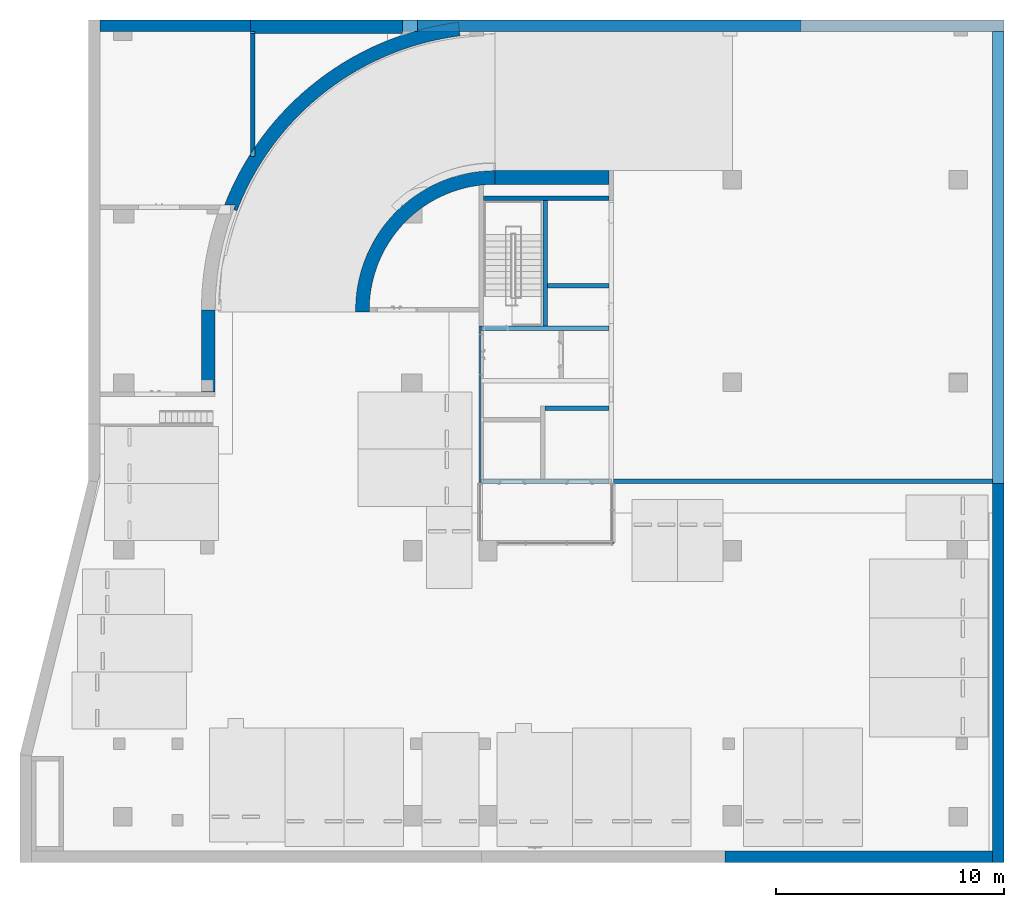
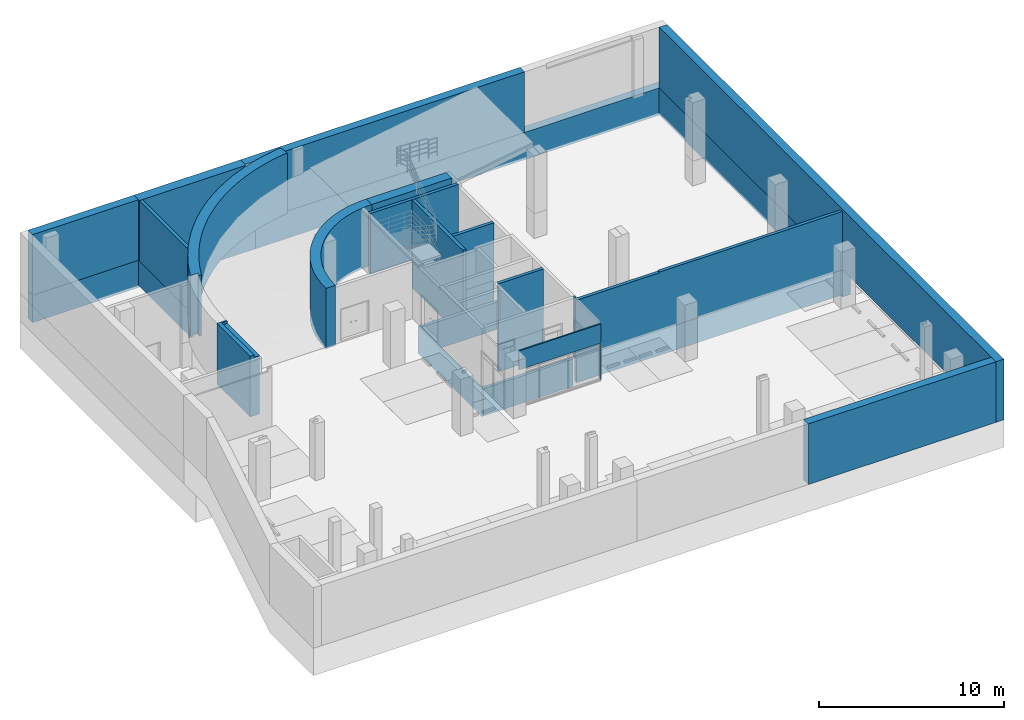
# One storey, part 13 of 30: 26 walls.
"""IFC2X3 building model written with IfcOpenShell, lengths in millimetres."""

from ifc_helpers import new_model, entity, si_unit, converted_unit, derived_unit, direction, frame, frame_2d, origin, place, context, subcontext, project, spatial, polyline, circle_curve, parameter, trimmed, segment, composite_curve, rectangle, outline, extrude, clip, bounded_halfspace, faceted_brep, material, layer, layer_set, layer_usage, type_object, element, save


model = new_model("IFC2X3")

# Units and contexts
model_context = context("Model", 3, precision=0.01, world=origin(), true_north=direction((6.123031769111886e-17, 1.0)))
body_context = subcontext(model_context, "Body", "Model", "MODEL_VIEW")
ifc_project = project(units=[si_unit("LENGTHUNIT", "METRE", prefix="MILLI"), si_unit("AREAUNIT", "SQUARE_METRE"), si_unit("VOLUMEUNIT", "CUBIC_METRE"), converted_unit("PLANEANGLEUNIT", "DEGREE", entity("IfcRatioMeasure", 0.017453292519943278), si_unit("PLANEANGLEUNIT", "RADIAN"), dimensions=[0, 0, 0, 0, 0, 0, 0]), si_unit("MASSUNIT", "GRAM", prefix="KILO"), derived_unit("MASSDENSITYUNIT", [(si_unit("MASSUNIT", "GRAM", prefix="KILO"), 1), (si_unit("LENGTHUNIT", "METRE"), -3)]), derived_unit("MOMENTOFINERTIAUNIT", [(si_unit("LENGTHUNIT", "METRE"), 4)]), si_unit("TIMEUNIT", "SECOND"), si_unit("FREQUENCYUNIT", "HERTZ"), si_unit("THERMODYNAMICTEMPERATUREUNIT", "DEGREE_CELSIUS"), derived_unit("THERMALTRANSMITTANCEUNIT", [(si_unit("MASSUNIT", "GRAM", prefix="KILO"), 1), (si_unit("THERMODYNAMICTEMPERATUREUNIT", "KELVIN"), -1), (si_unit("TIMEUNIT", "SECOND"), -3)]), derived_unit("VOLUMETRICFLOWRATEUNIT", [(si_unit("LENGTHUNIT", "METRE"), 3), (si_unit("TIMEUNIT", "SECOND"), -1)]), derived_unit("MASSFLOWRATEUNIT", [(si_unit("MASSUNIT", "GRAM", prefix="KILO"), 1), (si_unit("TIMEUNIT", "SECOND"), -1)]), derived_unit("ROTATIONALFREQUENCYUNIT", [(si_unit("TIMEUNIT", "SECOND"), -1)]), si_unit("ELECTRICCURRENTUNIT", "AMPERE"), si_unit("ELECTRICVOLTAGEUNIT", "VOLT"), si_unit("POWERUNIT", "WATT"), si_unit("FORCEUNIT", "NEWTON", prefix="KILO"), si_unit("ILLUMINANCEUNIT", "LUX"), si_unit("LUMINOUSFLUXUNIT", "LUMEN"), si_unit("LUMINOUSINTENSITYUNIT", "CANDELA"), derived_unit("USERDEFINED", [(si_unit("MASSUNIT", "GRAM", prefix="KILO"), -1), (si_unit("LENGTHUNIT", "METRE"), -2), (si_unit("TIMEUNIT", "SECOND"), 3), (si_unit("LUMINOUSFLUXUNIT", "LUMEN"), 1)]), derived_unit("SOUNDPOWERUNIT", [(si_unit("MASSUNIT", "GRAM", prefix="KILO"), 1), (si_unit("LENGTHUNIT", "METRE"), 2), (si_unit("TIMEUNIT", "SECOND"), -3)]), derived_unit("SOUNDPRESSUREUNIT", [(si_unit("MASSUNIT", "GRAM", prefix="KILO"), 1), (si_unit("LENGTHUNIT", "METRE"), -1), (si_unit("TIMEUNIT", "SECOND"), -2)]), derived_unit("LINEARVELOCITYUNIT", [(si_unit("LENGTHUNIT", "METRE"), 1), (si_unit("TIMEUNIT", "SECOND"), -1)]), si_unit("PRESSUREUNIT", "PASCAL"), derived_unit("USERDEFINED", [(si_unit("LENGTHUNIT", "METRE"), -2), (si_unit("MASSUNIT", "GRAM", prefix="KILO"), 1), (si_unit("TIMEUNIT", "SECOND"), -2)]), derived_unit("LINEARFORCEUNIT", [(si_unit("MASSUNIT", "GRAM", prefix="KILO"), 1), (si_unit("LENGTHUNIT", "METRE"), 1), (si_unit("TIMEUNIT", "SECOND"), -2), (si_unit("LENGTHUNIT", "METRE"), -1)]), derived_unit("PLANARFORCEUNIT", [(si_unit("MASSUNIT", "GRAM", prefix="KILO"), 1), (si_unit("LENGTHUNIT", "METRE"), 1), (si_unit("TIMEUNIT", "SECOND"), -2), (si_unit("LENGTHUNIT", "METRE"), -2)])], contexts=[model_context])

# Site, building, storey
site_placement = place(None, frame((-14167.972527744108, -657.2125860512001, 0.0)))
site = spatial("IfcSite", under=ifc_project, at=site_placement, Name="Default", CompositionType="ELEMENT")
building_placement = place(site_placement, origin())
building = spatial("IfcBuilding", under=site, at=building_placement, Name="Sample Building", CompositionType="ELEMENT")
storey_placement = place(building_placement, frame((0.0, 0.0, -10100.0)))
storey = spatial("IfcBuildingStorey", under=building, at=storey_placement, Name="지하2층", CompositionType="ELEMENT", Elevation=-10100.0)

# Walls
ifc_material_1 = material(Name="KBIMS-콘크리트")
ifc_layer_1 = layer(ifc_material_1, 200.0)
ifc_layer_set_1 = layer_set([ifc_layer_1], Name="기본 벽:WA111-철근콘크리트구조 벽 200mm_CW1")
wall_type_1 = type_object("IfcWallType", Name="기본 벽:WA111-철근콘크리트구조 벽 200mm_CW1", PredefinedType="STANDARD", material=ifc_layer_set_1)
wall_1_placement = place(storey_placement, frame((30066.125814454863, 22457.212311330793, -1800.0), z_axis=(0.0, 0.0, 1.0), x_axis=(0.0, -1.0, 0.0)))
element("IfcWall", 1, at=wall_1_placement, inside=storey, type_object=wall_type_1, Name="기본 벽:WA111-철근콘크리트구조 벽 200mm_CW1", ObjectType="기본 벽:WA111-철근콘크리트구조 벽 200mm_CW1", context=body_context, shape_type="Brep", body=[
    faceted_brep([(0.0, 100.0, 1800.0), (6900.0, 100.0, 1800.0), (6900.0, 100.0, 0.0), (0.0, 100.0, 0.0), (6900.0, 0.0, 0.0), (0.0, 0.0, 0.0), (0.0, 1.8466492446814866, 1800.0), (6900.0, 1.846649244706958, 1800.0), (0.0, 0.0, 1800.0), (6900.0, 0.0, 1800.0)], [[[0, 1, 2, 3]], [[3, 2, 4, 5]], [[1, 0, 6, 7]], [[7, 6, 8, 9]], [[5, 8, 6, 0, 3]], [[8, 5, 4, 9]], [[9, 4, 2, 1, 7]]]),
])
ifc_layer_usage_1 = layer_usage(ifc_layer_set_1, "AXIS2", "NEGATIVE", 100.0)
wall_2_placement = place(storey_placement, frame((30266.125814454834, 28057.212307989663, 0.0)))
element("IfcWallStandardCase", 2, at=wall_2_placement, inside=storey, type_object=wall_type_1, material=ifc_layer_usage_1, Name="기본 벽:WA111-철근콘크리트구조 벽 200mm_CW1", ObjectType="기본 벽:WA111-철근콘크리트구조 벽 200mm_CW1", context=body_context, shape_type="SweptSolid", body=[
    extrude(rectangle(XDim=5501.846676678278, YDim=199.99999999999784, at=frame_2d((2750.923338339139, 0.0), x_axis=(-1.0, 0.0))), origin(), (0.0, 0.0, 1.0), 4000.0000000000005),
])
ifc_layer_usage_2 = layer_usage(ifc_layer_set_1, "AXIS2", "NEGATIVE", 100.0)
wall_3_placement = place(storey_placement, frame((32967.97249113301, 27957.212307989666, 0.0), z_axis=(0.0, 0.0, 1.0), x_axis=(0.0, -1.0, 0.0)))
element("IfcWallStandardCase", 3, at=wall_3_placement, inside=storey, type_object=wall_type_1, material=ifc_layer_usage_2, Name="기본 벽:WA111-철근콘크리트구조 벽 200mm_CW1", ObjectType="기본 벽:WA111-철근콘크리트구조 벽 200mm_CW1", context=body_context, shape_type="SweptSolid", body=[
    extrude(rectangle(XDim=5499.999996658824, YDim=199.99999999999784, at=frame_2d((2749.999998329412, -4.263256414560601e-14), x_axis=(-1.0, 0.0))), origin(), (0.0, 0.0, 1.0), 4000.0000000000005),
])
ifc_layer_usage_3 = layer_usage(ifc_layer_set_1, "AXIS2", "NEGATIVE", 100.0)
wall_4_placement = place(storey_placement, frame((32967.97271708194, 18857.21230965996, 0.0)))
element("IfcWallStandardCase", 4, at=wall_4_placement, inside=storey, type_object=wall_type_1, material=ifc_layer_usage_3, Name="기본 벽:WA111-철근콘크리트구조 벽 200mm_CW1", ObjectType="기본 벽:WA111-철근콘크리트구조 벽 200mm_CW1", context=body_context, shape_type="SweptSolid", body=[
    extrude(rectangle(XDim=2799.999774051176, YDim=200.0, at=frame_2d((1399.999887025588, -1.0871303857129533e-12), x_axis=(-1.0, 0.0))), origin(), (0.0, 0.0, 1.0), 4000.0000000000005),
])
wall_5_placement = place(storey_placement, frame((52567.97249113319, 15653.302947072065, -1800.0), z_axis=(0.0, 0.0, 1.0), x_axis=(-1.0, 0.0, 0.0)))
element("IfcWall", 5, at=wall_5_placement, inside=storey, type_object=wall_type_1, Name="기본 벽:WA111-철근콘크리트구조 벽 200mm_CW1", ObjectType="기본 벽:WA111-철근콘크리트구조 벽 200mm_CW1", context=body_context, shape_type="SweptSolid", body=[
    extrude(rectangle(XDim=200.0, YDim=16600.00000000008, at=frame_2d((0.0, 4.547473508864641e-12), x_axis=(1.0, 0.0))), frame((8300.0, 0.0, 160.0), z_axis=(0.0, 0.0, 1.0), x_axis=(0.0, 1.0, 0.0)), (0.0, 0.0, 1.0), 1639.9999999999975),
    extrude(rectangle(XDim=5601.846676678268, YDim=200.0, at=frame_2d((33.02547857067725, -33.333333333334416), x_axis=(1.0, 0.0))), frame((19633.948816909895, -33.333333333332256, 0.0), z_axis=(0.0, 0.0, 1.0), x_axis=(-1.0, 0.0, 0.0)), (0.0, 0.0, 1.0), 1800.0000000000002),
])
ifc_layer_usage_4 = layer_usage(ifc_layer_set_1, "AXIS2", "NEGATIVE", 100.0)
wall_6_placement = place(storey_placement, frame((30166.12581445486, 22357.21231133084, -1800.0)))
element("IfcWallStandardCase", 6, at=wall_6_placement, inside=storey, type_object=wall_type_1, material=ifc_layer_usage_4, Name="기본 벽:WA111-철근콘크리트구조 벽 200mm_CW1", ObjectType="기본 벽:WA111-철근콘크리트구조 벽 200mm_CW1", context=body_context, shape_type="SweptSolid", body=[
    extrude(rectangle(XDim=5601.84667667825, YDim=199.99999999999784, at=frame_2d((2800.9233383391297, 0.0), x_axis=(-1.0, 0.0))), origin(), (0.0, 0.0, 1.0), 1799.999999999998),
])
ifc_layer_usage_5 = layer_usage(ifc_layer_set_1, "AXIS2", "NEGATIVE", 100.0)
wall_7_placement = place(storey_placement, frame((32967.97271708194, 18857.21230965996, -1800.0)))
element("IfcWallStandardCase", 7, at=wall_7_placement, inside=storey, type_object=wall_type_1, material=ifc_layer_usage_5, Name="기본 벽:WA111-철근콘크리트구조 벽 200mm_CW1", ObjectType="기본 벽:WA111-철근콘크리트구조 벽 200mm_CW1", context=body_context, shape_type="SweptSolid", body=[
    extrude(rectangle(XDim=2799.999774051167, YDim=200.0, at=frame_2d((1399.9998870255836, -1.0871303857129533e-12), x_axis=(-1.0, 0.0))), origin(), (0.0, 0.0, 1.0), 1799.999999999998),
])
ifc_layer_usage_6 = layer_usage(ifc_layer_set_1, "AXIS2", "NEGATIVE", 100.0)
wall_8_placement = place(storey_placement, frame((33067.972491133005, 24212.212293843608, 0.0)))
element("IfcWallStandardCase", 8, at=wall_8_placement, inside=storey, type_object=wall_type_1, material=ifc_layer_usage_6, Name="기본 벽:WA111-철근콘크리트구조 벽 200mm_CW1", ObjectType="기본 벽:WA111-철근콘크리트구조 벽 200mm_CW1", context=body_context, shape_type="Clipping", body=[
    clip(extrude(rectangle(XDim=2700.0000000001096, YDim=199.99999999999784, at=frame_2d((1350.0000000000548, 0.0), x_axis=(-1.0, 0.0))), origin(), (0.0, 0.0, 1.0), 3800.0000000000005), bounded_halfspace(frame((0.0, -100.0, 3800.0), z_axis=(0.0, 0.0, -1.0), x_axis=(-1.0, 0.0, 0.0)), True, frame((0.0, -100.0, 3800.0), z_axis=(0.0, 0.0, -1.0), x_axis=(-1.0, 0.0, 0.0)), polyline([(0.0, 0.0), (0.0, 60960.0), (-822960.0, 60960.0), (-822960.0, 0.0), (0.0, 0.0)]))),
])
ifc_layer_usage_7 = layer_usage(ifc_layer_set_1, "AXIS2", "NEGATIVE", 100.0)
wall_9_placement = place(storey_placement, frame((33067.972491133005, 24212.212293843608, -1640.0)))
element("IfcWallStandardCase", 9, at=wall_9_placement, inside=storey, type_object=wall_type_1, material=ifc_layer_usage_7, Name="기본 벽:WA111-철근콘크리트구조 벽 200mm_CW1", ObjectType="기본 벽:WA111-철근콘크리트구조 벽 200mm_CW1", context=body_context, shape_type="Clipping", body=[
    clip(extrude(rectangle(XDim=2700.0000000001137, YDim=199.99999999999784, at=frame_2d((1350.0000000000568, 0.0), x_axis=(1.0, 0.0))), origin(), (0.0, 0.0, 1.0), 1639.9999999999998), bounded_halfspace(frame((2700.0, -100.0, 0.0), z_axis=(0.0, 0.0, 1.0), x_axis=(0.0, 1.0, 0.0)), True, frame((2700.0, -100.0, 0.0), z_axis=(0.0, 0.0, 1.0), x_axis=(0.0, 1.0, 0.0)), polyline([(0.0, 0.0), (60960.0, 0.0), (60960.0, 822960.0), (0.0, 822960.0), (0.0, 0.0)]))),
])
ifc_layer_usage_8 = layer_usage(ifc_layer_set_1, "AXIS2", "NEGATIVE", 100.0)
wall_10_placement = place(storey_placement, frame((32967.97249113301, 27957.212307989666, -1800.0), z_axis=(0.0, 0.0, 1.0), x_axis=(0.0, -1.0, 0.0)))
element("IfcWallStandardCase", 10, at=wall_10_placement, inside=storey, type_object=wall_type_1, material=ifc_layer_usage_8, Name="기본 벽:WA111-철근콘크리트구조 벽 200mm_CW1", ObjectType="기본 벽:WA111-철근콘크리트구조 벽 200mm_CW1", context=body_context, shape_type="SweptSolid", body=[
    extrude(rectangle(XDim=5499.999996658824, YDim=199.99999999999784, at=frame_2d((2749.999998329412, -4.263256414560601e-14), x_axis=(-1.0, 0.0))), origin(), (0.0, 0.0, 1.0), 1799.999999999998),
])
wall_11_placement = place(storey_placement, frame((20167.97249113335, 35357.21230798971, -1800.0), z_axis=(0.0, 0.0, 1.0), x_axis=(0.0, -1.0, 0.0)))
element("IfcWall", 11, at=wall_11_placement, inside=storey, type_object=wall_type_1, Name="기본 벽:WA111-철근콘크리트구조 벽 200mm_CW1", ObjectType="기본 벽:WA111-철근콘크리트구조 벽 200mm_CW1", context=body_context, shape_type="Brep", body=[
    faceted_brep([(0.0, -100.0, 1800.0), (0.0, -100.0, 160.0), (5358.948119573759, -100.0, 160.0), (5358.948119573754, -100.0, 0.0), (5481.183139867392, -100.0, 0.0), (5481.183139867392, -100.0, 1800.0), (5055.772135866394, 100.0, 160.0), (0.0, 100.0, 160.0), (0.0, 100.0, 1800.0), (5481.183139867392, 100.0, 1800.0), (5481.183139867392, 100.0, 0.0), (5055.772135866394, 100.0, 0.0), (5206.645126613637, -1.0838558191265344, 0.0), (5206.635205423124, -1.0773109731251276, 160.0)], [[[0, 1, 2, 3, 4, 5]], [[6, 7, 8, 9, 10, 11]], [[4, 3, 12, 11, 10]], [[5, 4, 10, 9]], [[0, 5, 9, 8]], [[7, 1, 0, 8]], [[1, 7, 6, 13, 2]], [[11, 13, 6]], [[13, 11, 12]], [[12, 3, 2]], [[12, 2, 13]]]),
])
ifc_layer_2 = layer(ifc_material_1, 500.00000000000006)
ifc_layer_set_2 = layer_set([ifc_layer_2], Name="기본 벽:WA111-철근콘크리트구조 벽 500mm_BW1")
ifc_layer_usage_9 = layer_usage(ifc_layer_set_2, "AXIS2", "NEGATIVE", 250.00000000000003)
wall_type_2 = type_object("IfcWallType", Name="기본 벽:WA111-철근콘크리트구조 벽 500mm_BW1", PredefinedType="STANDARD", material=ifc_layer_set_2)
wall_12_placement = place(storey_placement, frame((13467.972491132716, 35607.21230798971, -1800.0)))
element("IfcWallStandardCase", 12, at=wall_12_placement, inside=storey, type_object=wall_type_2, material=ifc_layer_usage_9, Name="기본 벽:WA111-철근콘크리트구조 벽 500mm_BW1", ObjectType="기본 벽:WA111-철근콘크리트구조 벽 500mm_BW1", context=body_context, shape_type="SweptSolid", body=[
    extrude(rectangle(XDim=13900.000000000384, YDim=499.999999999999, at=frame_2d((6950.000000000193, 0.0), x_axis=(-1.0, 0.0))), origin(), (0.0, 0.0, 1.0), 1799.999999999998),
])
ifc_layer_usage_10 = layer_usage(ifc_layer_set_2, "AXIS2", "NEGATIVE", 250.00000000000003)
wall_13_placement = place(storey_placement, frame((27367.9724911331, 35607.212307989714, -1800.0)))
element("IfcWallStandardCase", 13, at=wall_13_placement, inside=storey, type_object=wall_type_2, material=ifc_layer_usage_10, Name="기본 벽:WA111-철근콘크리트구조 벽 500mm_BW1", ObjectType="기본 벽:WA111-철근콘크리트구조 벽 500mm_BW1", context=body_context, shape_type="SweptSolid", body=[
    extrude(rectangle(XDim=25700.000000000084, YDim=499.999999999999, at=frame_2d((12850.000000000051, 0.0), x_axis=(-1.0, 0.0))), origin(), (0.0, 0.0, 1.0), 1799.999999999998),
])
ifc_layer_usage_11 = layer_usage(ifc_layer_set_2, "AXIS2", "NEGATIVE", 250.00000000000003)
wall_14_placement = place(storey_placement, frame((52817.97249113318, 35357.212307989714, -1800.0), z_axis=(0.0, 0.0, 1.0), x_axis=(0.0, -1.0, 0.0)))
element("IfcWallStandardCase", 14, at=wall_14_placement, inside=storey, type_object=wall_type_2, material=ifc_layer_usage_11, Name="기본 벽:WA111-철근콘크리트구조 벽 500mm_BW1", ObjectType="기본 벽:WA111-철근콘크리트구조 벽 500mm_BW1", context=body_context, shape_type="Clipping", body=[
    clip(extrude(rectangle(XDim=499.999999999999, YDim=19800.000000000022, at=frame_2d((9900.000000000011, 4.334310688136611e-12), x_axis=(0.0, 1.0))), origin(), (0.0, 0.0, 1.0), 1799.999999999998), bounded_halfspace(frame((19800.0, -250.0, 1800.0), z_axis=(-1.0, 0.0, 0.0), x_axis=(0.0, 0.0, 1.0)), True, frame((19800.0, -250.0, 1800.0), z_axis=(-1.0, 0.0, 0.0), x_axis=(0.0, 0.0, 1.0)), polyline([(0.0, 0.0), (0.0, 152400.0), (-548640.0, 152400.0), (-548640.0, 0.0), (0.0, 0.0)]))),
])
ifc_layer_3 = layer(ifc_material_1, 500.00000000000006)
ifc_layer_set_3 = layer_set([ifc_layer_3], Name="기본 벽:WA111-철근콘크리트구조 벽 500mm_BW5")
ifc_layer_usage_12 = layer_usage(ifc_layer_set_3, "AXIS2", "NEGATIVE", 250.00000000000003)
wall_type_3 = type_object("IfcWallType", Name="기본 벽:WA111-철근콘크리트구조 벽 500mm_BW5", PredefinedType="STANDARD", material=ifc_layer_set_3)
wall_15_placement = place(storey_placement, frame((13467.97249113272, 35607.17762439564, 0.0)))
element("IfcWallStandardCase", 15, at=wall_15_placement, inside=storey, type_object=wall_type_3, material=ifc_layer_usage_12, Name="기본 벽:WA111-철근콘크리트구조 벽 500mm_BW5", ObjectType="기본 벽:WA111-철근콘크리트구조 벽 500mm_BW5", context=body_context, shape_type="SweptSolid", body=[
    extrude(rectangle(XDim=6600.0000000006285, YDim=499.999999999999, at=frame_2d((3300.0000000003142, -3.126388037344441e-13), x_axis=(-1.0, 0.0))), origin(), (0.0, 0.0, 1.0), 4000.0000000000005),
])
ifc_layer_4 = layer(ifc_material_1, 500.00000000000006)
ifc_layer_set_4 = layer_set([ifc_layer_4], Name="기본 벽:WA111-철근콘크리트구조 벽 500mm_BW3")
ifc_layer_usage_13 = layer_usage(ifc_layer_set_4, "AXIS2", "NEGATIVE", 250.00000000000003)
wall_type_4 = type_object("IfcWallType", Name="기본 벽:WA111-철근콘크리트구조 벽 500mm_BW3", PredefinedType="STANDARD", material=ifc_layer_set_4)
wall_16_placement = place(storey_placement, frame((52817.97249113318, 35357.17762439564, 0.0), z_axis=(0.0, 0.0, 1.0), x_axis=(0.0, -1.0, 0.0)))
element("IfcWallStandardCase", 16, at=wall_16_placement, inside=storey, type_object=wall_type_4, material=ifc_layer_usage_13, Name="기본 벽:WA111-철근콘크리트구조 벽 500mm_BW3", ObjectType="기본 벽:WA111-철근콘크리트구조 벽 500mm_BW3", context=body_context, shape_type="SweptSolid", body=[
    extrude(rectangle(XDim=36399.96531640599, YDim=499.999999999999, at=frame_2d((18199.982658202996, 5.5990767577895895e-12), x_axis=(-1.0, 0.0))), origin(), (0.0, 0.0, 1.0), 4000.0000000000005),
])
ifc_layer_usage_14 = layer_usage(ifc_layer_set_4, "AXIS2", "NEGATIVE", 250.00000000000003)
wall_17_placement = place(storey_placement, frame((52567.97249113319, -792.7876920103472, 0.0), z_axis=(0.0, 0.0, 1.0), x_axis=(-1.0, 0.0, 0.0)))
element("IfcWallStandardCase", 17, at=wall_17_placement, inside=storey, type_object=wall_type_4, material=ifc_layer_usage_14, Name="기본 벽:WA111-철근콘크리트구조 벽 500mm_BW3", ObjectType="기본 벽:WA111-철근콘크리트구조 벽 500mm_BW3", context=body_context, shape_type="SweptSolid", body=[
    extrude(rectangle(XDim=11710.000000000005, YDim=500.0, at=frame_2d((5855.000000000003, 2.842170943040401e-14), x_axis=(-1.0, 0.0))), origin(), (0.0, 0.0, 1.0), 4000.0000000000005),
])
ifc_layer_5 = layer(ifc_material_1, 200.0)
ifc_layer_set_5 = layer_set([ifc_layer_5], Name="기본 벽:WA111-철근콘크리트구조 벽 200mm_W1")
wall_type_5 = type_object("IfcWallType", Name="기본 벽:WA111-철근콘크리트구조 벽 200mm_W1", PredefinedType="STANDARD", material=ifc_layer_set_5)
wall_18_placement = place(storey_placement, frame((52567.97249113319, 15657.212586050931, 0.0), z_axis=(0.0, 0.0, 1.0), x_axis=(-1.0, 0.0, 0.0)))
element("IfcWall", 18, at=wall_18_placement, inside=storey, type_object=wall_type_5, Name="기본 벽:WA111-철근콘크리트구조 벽 200mm_W1", ObjectType="기본 벽:WA111-철근콘크리트구조 벽 200mm_W1", context=body_context, shape_type="Brep", body=[
    faceted_brep([(0.0, -100.0, 0.0), (16600.0, -100.0, 0.0), (16700.0, -100.0, 0.0), (16700.0, -100.0, 4000.0), (16600.0, -100.0, 4000.0), (16600.0, -100.0, 3800.0), (11600.009525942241, -100.0, 3800.0), (11399.992176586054, -100.0, 3800.0), (11399.992176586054, -100.0, 3850.0), (11200.009525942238, -100.0, 3850.0), (1700.0095259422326, -100.0, 3850.0), (1300.0095259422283, -100.0, 3850.0), (0.0, -100.0, 3850.0), (16700.0, 100.0, 4000.0), (16700.0, 100.0, 0.0), (16595.0, 100.0, 0.0), (155.1055803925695, 100.0, 0.0), (0.0, 100.0, 0.0), (0.0, 100.0, 3850.0), (1300.0095259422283, 100.0, 3850.0), (1700.0095259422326, 100.0, 3850.0), (11200.009525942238, 100.0, 3850.0), (11399.992176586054, 100.0, 3850.0), (11399.992176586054, 100.0, 3800.0), (16600.0, 100.0, 3800.0), (16600.0, 100.0, 4000.0), (0.0, -96.09036102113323, 0.0), (11399.992176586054, 100.00027806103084, 3800.0), (16600.0, 100.00027806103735, 3800.0)], [[[0, 1, 2, 3, 4, 5, 6, 7, 8, 9, 10, 11, 12]], [[13, 14, 15, 16, 17, 18, 19, 20, 21, 22, 23, 24, 25]], [[2, 1, 0, 26, 17, 16, 15, 14]], [[3, 2, 14, 13]], [[3, 13, 25, 4]], [[7, 6, 5, 24, 27]], [[7, 23, 22, 8]], [[17, 26, 0, 12, 18]], [[8, 22, 21, 20, 19, 18, 12, 11, 10, 9]], [[28, 5, 4, 25]]]),
])
ifc_layer_usage_15 = layer_usage(ifc_layer_set_5, "AXIS2", "NEGATIVE", 100.0)
wall_19_placement = place(storey_placement, frame((20167.97249113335, 35257.17762439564, 0.0), z_axis=(0.0, 0.0, 1.0), x_axis=(0.0, -1.0, 0.0)))
element("IfcWallStandardCase", 19, at=wall_19_placement, inside=storey, type_object=wall_type_5, material=ifc_layer_usage_15, Name="기본 벽:WA111-철근콘크리트구조 벽 200mm_W1", ObjectType="기본 벽:WA111-철근콘크리트구조 벽 200mm_W1", context=body_context, shape_type="SweptSolid", body=[
    extrude(outline(composite_curve([segment(trimmed(circle_curve(frame_2d((12099.965316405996, 10600.0), x_axis=(0.0, 1.0)), 12699.999999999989), [parameter(145.76852299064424)], [parameter(147.4071564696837)], True, "PARAMETER"), False, "CONTINUOUS"), segment(polyline([(4955.73687660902, 100.0), (0.0, 100.0)]), True, "CONTINUOUS"), segment(polyline([(0.0, 100.0), (0.0, -100.0)]), True, "CONTINUOUS"), segment(polyline([(0.0, -100.0), (5258.91276581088, -100.0)]), True, "CONTINUOUS")], self_intersect=False)), origin(), (0.0, 0.0, 1.0), 4000.0000000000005),
])
ifc_layer_6 = layer(ifc_material_1, 600.0)
ifc_layer_set_6 = layer_set([ifc_layer_6], Name="기본 벽:WA111-철근콘크리트구조 벽 300mm_RaW1")
ifc_layer_usage_16 = layer_usage(ifc_layer_set_6, "AXIS2", "NEGATIVE", 300.0)
wall_type_6 = type_object("IfcWallType", Name="기본 벽:WA111-철근콘크리트구조 벽 300mm_RaW1", PredefinedType="STANDARD", material=ifc_layer_set_6)
wall_20_placement = place(storey_placement, frame((30767.97249113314, 28957.212307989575, 0.0)))
element("IfcWallStandardCase", 20, at=wall_20_placement, inside=storey, type_object=wall_type_6, material=ifc_layer_usage_16, Name="기본 벽:WA111-철근콘크리트구조 벽 300mm_RaW1", ObjectType="기본 벽:WA111-철근콘크리트구조 벽 300mm_RaW1", context=body_context, shape_type="SweptSolid", body=[
    extrude(rectangle(XDim=4999.999999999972, YDim=600.0000000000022, at=frame_2d((2499.999999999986, 0.0), x_axis=(-1.0, 0.0))), origin(), (0.0, 0.0, 1.0), 4000.0000000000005),
])
ifc_layer_usage_17 = layer_usage(ifc_layer_set_6, "AXIS2", "POSITIVE", -300.0)
wall_21_placement = place(storey_placement, frame((24968.931248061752, 23051.7577625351, 0.0)))
element("IfcWallStandardCase", 21, at=wall_21_placement, inside=storey, type_object=wall_type_6, material=ifc_layer_usage_17, Name="기본 벽:WA111-철근콘크리트구조 벽 300mm_RaW1", ObjectType="기본 벽:WA111-철근콘크리트구조 벽 300mm_RaW1", context=body_context, shape_type="SweptSolid", body=[
    extrude(outline(composite_curve([segment(trimmed(circle_curve(frame_2d((5799.041243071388, 105.45454545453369), x_axis=(1.0, 0.0)), 6099.999999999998), [parameter(90.00000000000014)], [parameter(131.05334681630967)], True, "PARAMETER"), True, "CONTINUOUS"), segment(trimmed(circle_curve(frame_2d((5799.041243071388, 105.45454545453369), x_axis=(1.0, 0.0)), 6099.999999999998), [parameter(131.05334681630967)], [parameter(132.23198172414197)], True, "PARAMETER"), True, "CONTINUOUS"), segment(trimmed(circle_curve(frame_2d((5799.041243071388, 105.45454545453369), x_axis=(1.0, 0.0)), 6099.999999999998), [parameter(132.23198172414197)], [parameter(180.9393171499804)], True, "PARAMETER"), True, "CONTINUOUS"), segment(polyline([(-300.13902971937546, 5.454545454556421), (299.95040912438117, 5.45454545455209)]), True, "CONTINUOUS"), segment(trimmed(circle_curve(frame_2d((5799.041243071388, 105.45454545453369), x_axis=(1.0, 0.0)), 5499.999999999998), [parameter(178.95820114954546)], [parameter(181.04179885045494)], True, "PARAMETER"), False, "CONTINUOUS"), segment(trimmed(circle_curve(frame_2d((5799.041243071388, 105.45454545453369), x_axis=(1.0, 0.0)), 5499.999999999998), [parameter(136.2978651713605)], [parameter(178.95820114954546)], True, "PARAMETER"), False, "CONTINUOUS"), segment(trimmed(circle_curve(frame_2d((5799.041243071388, 105.45454545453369), x_axis=(1.0, 0.0)), 5499.999999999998), [parameter(125.57876736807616)], [parameter(136.2978651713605)], True, "PARAMETER"), False, "CONTINUOUS"), segment(trimmed(circle_curve(frame_2d((5799.041243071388, 105.45454545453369), x_axis=(1.0, 0.0)), 5499.999999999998), [parameter(97.3314448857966)], [parameter(125.57876736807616)], True, "PARAMETER"), False, "CONTINUOUS"), segment(trimmed(circle_curve(frame_2d((5799.041243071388, 105.45454545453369), x_axis=(1.0, 0.0)), 5499.999999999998), [parameter(95.2352471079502)], [parameter(97.3314448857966)], True, "PARAMETER"), False, "CONTINUOUS"), segment(trimmed(circle_curve(frame_2d((5799.041243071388, 105.45454545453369), x_axis=(1.0, 0.0)), 5499.999999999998), [parameter(90.00000000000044)], [parameter(95.2352471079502)], True, "PARAMETER"), False, "CONTINUOUS"), segment(polyline([(5799.041243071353, 5605.4545454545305), (5799.041243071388, 6205.454545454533)]), True, "CONTINUOUS")], self_intersect=False)), origin(), (0.0, 0.0, 1.0), 4000.0000000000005),
])
ifc_layer_usage_18 = layer_usage(ifc_layer_set_6, "AXIS2", "POSITIVE", -300.0)
wall_22_placement = place(storey_placement, frame((19192.51695220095, 27603.427447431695, 0.0)))
element("IfcWallStandardCase", 22, at=wall_22_placement, inside=storey, type_object=wall_type_6, material=ifc_layer_usage_18, Name="기본 벽:WA111-철근콘크리트구조 벽 300mm_RaW1", ObjectType="기본 벽:WA111-철근콘크리트구조 벽 300mm_RaW1", context=body_context, shape_type="SweptSolid", body=[
    extrude(outline(composite_curve([segment(trimmed(circle_curve(frame_2d((-9068.954943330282, 6436.079299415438), x_axis=(-0.1260089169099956, 0.9920291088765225)), 12099.99999999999), [parameter(205.9029272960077)], [parameter(262.7609768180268)], True, "PARAMETER"), False, "CONTINUOUS"), segment(trimmed(circle_curve(frame_2d((-9068.954943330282, 6436.079299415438), x_axis=(-0.1260089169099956, 0.9920291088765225)), 12099.99999999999), [parameter(201.01213912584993)], [parameter(205.9029272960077)], True, "PARAMETER"), False, "CONTINUOUS"), segment(polyline([(-3341.570746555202, -4222.582448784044), (-3265.901711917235, -4363.402519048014)]), True, "CONTINUOUS"), segment(trimmed(circle_curve(frame_2d((-9087.855599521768, 6584.878301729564), x_axis=(-0.1260089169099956, 0.9920291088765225)), 12399.999999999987), [parameter(200.76362750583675)], [parameter(201.77531281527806)], True, "PARAMETER"), True, "CONTINUOUS"), segment(polyline([(-3073.5028942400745, -4258.901552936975), (-3013.971361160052, -4727.574843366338)]), True, "CONTINUOUS"), segment(trimmed(circle_curve(frame_2d((-9068.954943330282, 6436.079299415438), x_axis=(-0.1260089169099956, 0.9920291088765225)), 12699.999999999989), [parameter(201.23565757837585)], [parameter(212.59280744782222)], True, "PARAMETER"), True, "CONTINUOUS"), segment(trimmed(circle_curve(frame_2d((-9068.954943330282, 6436.079299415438), x_axis=(-0.1260089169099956, 0.9920291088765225)), 12699.999999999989), [parameter(212.59280744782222)], [parameter(214.23144197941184)], True, "PARAMETER"), True, "CONTINUOUS"), segment(trimmed(circle_curve(frame_2d((-9068.954943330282, 6436.079299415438), x_axis=(-0.1260089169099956, 0.9920291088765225)), 12699.999999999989), [parameter(214.23144197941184)], [parameter(251.16547172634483)], True, "PARAMETER"), True, "CONTINUOUS"), segment(trimmed(circle_curve(frame_2d((-9068.954943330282, 6436.079299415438), x_axis=(-0.1260089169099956, 0.9920291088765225)), 12699.999999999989), [parameter(251.16547172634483)], [parameter(253.86862748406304)], True, "PARAMETER"), True, "CONTINUOUS"), segment(trimmed(circle_curve(frame_2d((-9068.954943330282, 6436.079299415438), x_axis=(-0.1260089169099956, 0.9920291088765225)), 12699.999999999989), [parameter(253.86862748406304)], [parameter(262.76097681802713)], True, "PARAMETER"), True, "CONTINUOUS"), segment(polyline([(3631.045056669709, 6436.07929941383), (3229.036322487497, 6436.07929941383)]), True, "CONTINUOUS"), segment(polyline([(3229.036322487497, 6436.07929941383), (3031.0450566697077, 6436.07929941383)]), True, "CONTINUOUS")], self_intersect=False)), frame((4047.9083369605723, 3739.448769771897, 0.0), z_axis=(0.0, 0.0, -1.0), x_axis=(-0.12600891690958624, 0.992029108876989, 0.0)), (0.0, 0.0, -1.0), 3999.999999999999),
])
wall_23_placement = place(storey_placement, frame((18217.96708401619, 23157.212307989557, 0.0), z_axis=(0.0, 0.0, 1.0), x_axis=(0.0, -1.0, 0.0)))
element("IfcWall", 23, at=wall_23_placement, inside=storey, type_object=wall_type_6, Name="기본 벽:WA111-철근콘크리트구조 벽 300mm_RaW1", ObjectType="기본 벽:WA111-철근콘크리트구조 벽 300mm_RaW1", context=body_context, shape_type="Brep", body=[
    faceted_brep([(0.0, -300.0, 0.0), (3600.0, -300.0, 0.0), (3600.0, -300.0, 4000.0), (0.0, -300.0, 4000.0), (3600.0, 300.0, 0.0), (0.0, 300.0, 0.0), (0.0, 300.0, 4000.0), (100.0, 300.0, 4000.0), (100.0, 300.0, 3850.0), (3600.0, 300.0, 3850.0), (3600.0, -49.98676946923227, 4000.0), (3350.0, -49.98676946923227, 4000.0), (100.0, -49.98676946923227, 4000.0), (3600.0, -49.986769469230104, 3850.0), (100.0, -49.98676946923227, 3850.0), (3350.0, -49.986769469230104, 3850.0)], [[[0, 1, 2, 3]], [[4, 5, 6, 7, 8, 9]], [[1, 0, 5, 4]], [[3, 2, 10, 11, 12, 7, 6]], [[0, 3, 6, 5]], [[13, 9, 8, 14, 15]], [[12, 14, 8, 7]], [[13, 15, 14, 12, 11, 10]], [[2, 1, 4, 9, 13, 10]]]),
])
ifc_material_2 = material(Name="KBIMS-시멘트 벽돌")
ifc_layer_7 = layer(ifc_material_2, 90.0)
ifc_layer_set_7 = layer_set([ifc_layer_7], Name="기본 벽:WA211-시멘트벽돌(일반) 벽 (0.5B) 90mm")
wall_type_7 = type_object("IfcWallType", Name="기본 벽:WA211-시멘트벽돌(일반) 벽 (0.5B) 90mm", PredefinedType="STANDARD", material=ifc_layer_set_7)
wall_24_placement = place(storey_placement, frame((30867.972463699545, 12957.21258605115, 200.0)))
element("IfcWall", 24, at=wall_24_placement, inside=storey, type_object=wall_type_7, Name="기본 벽:WA211-시멘트벽돌(일반) 벽 (0.5B) 90mm", ObjectType="기본 벽:WA211-시멘트벽돌(일반) 벽 (0.5B) 90mm", context=body_context, shape_type="Brep", body=[
    faceted_brep([(0.0, -45.0, 2390.0), (5055.00002743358, -45.0, 2390.0), (5055.00002743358, -45.0, 0.0), (5100.0000274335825, -45.0, 0.0), (5100.0000274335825, -45.0, 3650.0), (0.0, -45.0, 3650.0), (5055.00002743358, 45.0, 2390.0), (5010.000027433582, 45.0, 2390.0), (0.0, 45.0, 2390.0), (0.0, 45.0, 3650.0), (5100.0000274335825, 45.0, 3650.0), (5100.0000274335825, 45.0, 2390.0), (5100.0000274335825, 45.0, 0.0), (5055.00002743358, 45.0, 0.0)], [[[0, 1, 2, 3, 4, 5]], [[6, 7, 8, 9, 10, 11, 12, 13]], [[8, 0, 5, 9]], [[10, 4, 3, 12, 11]], [[6, 1, 0, 8, 7]], [[1, 6, 13, 2]], [[5, 4, 10, 9]], [[3, 2, 13, 12]]]),
])
ifc_layer_8 = layer(ifc_material_1, 600.0)
ifc_layer_set_8 = layer_set([ifc_layer_8], Name="기본 벽:WA111-철근콘크리트구조 벽 600mm_DW1")
ifc_layer_usage_19 = layer_usage(ifc_layer_set_8, "AXIS2", "NEGATIVE", 300.0)
wall_type_8 = type_object("IfcWallType", Name="기본 벽:WA111-철근콘크리트구조 벽 600mm_DW1", PredefinedType="STANDARD", material=ifc_layer_set_8)
wall_25_placement = place(storey_placement, frame((20067.972491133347, 35557.177624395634, 0.0)))
element("IfcWallStandardCase", 25, at=wall_25_placement, inside=storey, type_object=wall_type_8, material=ifc_layer_usage_19, Name="기본 벽:WA111-철근콘크리트구조 벽 600mm_DW1", ObjectType="기본 벽:WA111-철근콘크리트구조 벽 600mm_DW1", context=body_context, shape_type="SweptSolid", body=[
    extrude(rectangle(XDim=6660.000000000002, YDim=599.999999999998, at=frame_2d((3330.000000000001, 1.8189894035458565e-12), x_axis=(-1.0, 0.0))), origin(), (0.0, 0.0, 1.0), 4000.0000000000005),
])
ifc_layer_9 = layer(ifc_material_1, 500.00000000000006)
ifc_layer_set_9 = layer_set([ifc_layer_9], Name="기본 벽:WA111-철근콘크리트구조 벽 500mm_BW4")
ifc_layer_usage_20 = layer_usage(ifc_layer_set_9, "AXIS2", "NEGATIVE", 250.00000000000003)
wall_type_9 = type_object("IfcWallType", Name="기본 벽:WA111-철근콘크리트구조 벽 500mm_BW4", PredefinedType="STANDARD", material=ifc_layer_set_9)
wall_26_placement = place(storey_placement, frame((26727.97249113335, 35607.177624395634, 0.0)))
element("IfcWallStandardCase", 26, at=wall_26_placement, inside=storey, type_object=wall_type_9, material=ifc_layer_usage_20, Name="기본 벽:WA111-철근콘크리트구조 벽 500mm_BW4", ObjectType="기본 벽:WA111-철근콘크리트구조 벽 500mm_BW4", context=body_context, shape_type="SweptSolid", body=[
    extrude(outline(composite_curve([segment(polyline([(-372.83596669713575, -6861.942515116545), (127.16403330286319, -6861.942515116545)]), True, "CONTINUOUS"), segment(polyline([(127.16403330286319, -6861.942515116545), (127.16403330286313, -6350.518187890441)]), True, "CONTINUOUS"), segment(trimmed(circle_curve(frame_2d((12327.129349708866, -2821.942515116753), x_axis=(0.0, 1.0)), 12699.999999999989), [parameter(97.23902318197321)], [parameter(106.13136740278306)], True, "PARAMETER"), False, "CONTINUOUS"), segment(polyline([(-271.640333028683, -4422.255759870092), (127.16403330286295, -4371.599074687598)]), True, "CONTINUOUS"), segment(polyline([(127.16403330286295, -4371.599074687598), (127.1640333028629, -3921.968594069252)]), True, "CONTINUOUS"), segment(polyline([(127.1640333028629, -3921.968594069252), (127.16403330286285, -3321.96859406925)]), True, "CONTINUOUS"), segment(polyline([(127.16403330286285, -3321.96859406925), (127.16403330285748, 7178.040135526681)]), True, "CONTINUOUS"), segment(polyline([(127.16403330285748, 7178.040135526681), (127.16403330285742, 7778.040135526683)]), True, "CONTINUOUS"), segment(polyline([(127.16403330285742, 7778.040135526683), (127.16403330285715, 10578.057484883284)]), True, "CONTINUOUS"), segment(polyline([(127.16403330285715, 10578.057484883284), (-372.83596669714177, 10578.057484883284)]), True, "CONTINUOUS"), segment(polyline([(-372.83596669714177, 10578.057484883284), (-372.83596669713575, -6861.942515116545)]), True, "CONTINUOUS")], self_intersect=False)), frame((6861.942515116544, -122.83596669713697, 0.0), z_axis=(0.0, 0.0, 1.0), x_axis=(0.0, -1.0, 0.0)), (0.0, 0.0, 1.0), 3999.999999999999),
])

save(model, "model.ifc")
